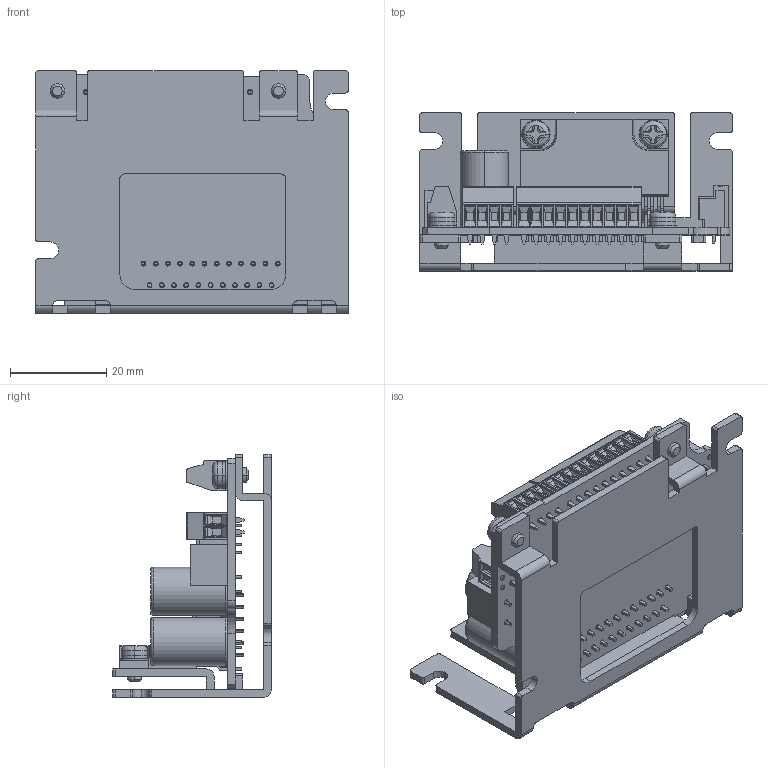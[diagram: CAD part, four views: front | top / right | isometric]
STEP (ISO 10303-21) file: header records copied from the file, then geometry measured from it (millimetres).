
FILE_DESCRIPTION (( 'STEP AP214' ), '1' );
FILE_NAME ('PDSA-UP_3D.STEP', '2021-12-22T01:43:48', ( '' ), ( '' ), 'SwSTEP 2.0', 'SolidWorks 2018', '' );
FILE_SCHEMA (( 'AUTOMOTIVE_DESIGN' ));
Length unit declared in the file: millimetre
Products named in the file (1): PDSA-UP_3D
Bounding box: 65 x 33 x 50.5 mm (x, y, z)
Volume: 18925.1 mm3; surface area: 24169 mm2
Topology: 26 solids, 26 shells, 1600 faces, 4133 edges, 2720 vertices
Faces by surface type: plane 1009, cylinder 547, cone 26, torus 18
Entity records: 49452 total; most frequent: CARTESIAN_POINT 9020, DIRECTION 8337, ORIENTED_EDGE 8266, EDGE_CURVE 4133, VECTOR 2803, LINE 2803, AXIS2_PLACEMENT_3D 2767, VERTEX_POINT 2720
